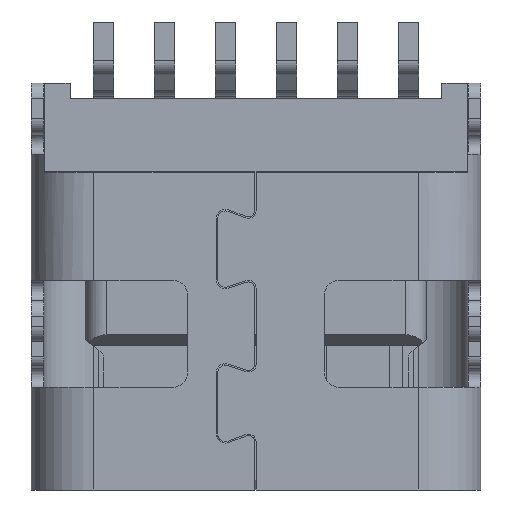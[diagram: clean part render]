
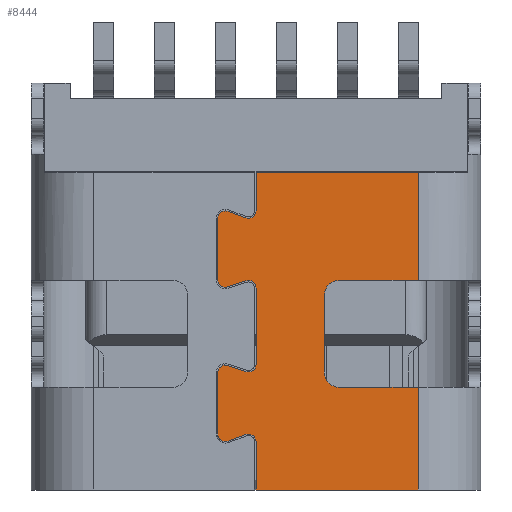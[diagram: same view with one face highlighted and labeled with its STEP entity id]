
A CAD part, front view. The second image highlights one B-rep face of the part: STEP entity #8444.
In plain terms, the highlighted planar face has unit normal (0, -1, 0).
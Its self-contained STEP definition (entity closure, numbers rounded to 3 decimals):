
#1666=DIRECTION('',(-1.,0.,0.));
#1667=VECTOR('',#1666,1.55);
#1668=CARTESIAN_POINT('',(3.19,-1.535,-10.018));
#1669=LINE('',#1668,#1667);
#1674=CARTESIAN_POINT('',(1.64,-1.535,-8.218));
#1675=DIRECTION('',(0.,-1.,0.));
#1676=DIRECTION('',(0.,0.,1.));
#1677=AXIS2_PLACEMENT_3D('',#1674,#1675,#1676);
#1679=CARTESIAN_POINT('',(1.64,-1.535,-9.718));
#1680=DIRECTION('',(0.,-1.,0.));
#1681=DIRECTION('',(-1.,0.,0.));
#1682=AXIS2_PLACEMENT_3D('',#1679,#1680,#1681);
#1684=DIRECTION('',(-1.,0.,0.));
#1685=VECTOR('',#1684,3.19);
#1686=CARTESIAN_POINT('',(3.19,-1.535,-12.038));
#1687=LINE('',#1686,#1685);
#1688=CARTESIAN_POINT('',(-0.15,-1.535,-11.088));
#1689=DIRECTION('',(0.,-1.,0.));
#1690=DIRECTION('',(1.,0.,0.));
#1691=AXIS2_PLACEMENT_3D('',#1688,#1689,#1690);
#1693=DIRECTION('',(-0.939,0.,-0.344));
#1694=VECTOR('',#1693,0.369);
#1695=CARTESIAN_POINT('',(-0.202,-1.535,
-10.948));
#1696=LINE('',#1695,#1694);
#1697=CARTESIAN_POINT('',(-0.6,-1.535,-10.934));
#1698=DIRECTION('',(0.,1.,0.));
#1699=DIRECTION('',(0.344,0.,-0.939));
#1700=AXIS2_PLACEMENT_3D('',#1697,#1698,#1699);
#1702=CARTESIAN_POINT('',(-0.6,-1.535,-9.734));
#1703=DIRECTION('',(0.,1.,0.));
#1704=DIRECTION('',(-1.,0.,0.));
#1705=AXIS2_PLACEMENT_3D('',#1702,#1703,#1704);
#1707=DIRECTION('',(0.948,0.,-0.317));
#1708=VECTOR('',#1707,0.374);
#1709=CARTESIAN_POINT('',(-0.552,-1.535,
-9.592));
#1710=LINE('',#1709,#1708);
#1711=CARTESIAN_POINT('',(-0.15,-1.535,-9.568));
#1712=DIRECTION('',(0.,-1.,0.));
#1713=DIRECTION('',(-0.317,0.,-0.948));
#1714=AXIS2_PLACEMENT_3D('',#1711,#1712,#1713);
#1716=CARTESIAN_POINT('',(-0.15,-1.535,-8.068));
#1717=DIRECTION('',(0.,-1.,0.));
#1718=DIRECTION('',(1.,0.,0.));
#1719=AXIS2_PLACEMENT_3D('',#1716,#1717,#1718);
#1721=DIRECTION('',(-0.948,0.,-0.317));
#1722=VECTOR('',#1721,0.374);
#1723=CARTESIAN_POINT('',(-0.198,-1.535,
-7.926));
#1724=LINE('',#1723,#1722);
#1725=CARTESIAN_POINT('',(-0.6,-1.535,-7.902));
#1726=DIRECTION('',(0.,1.,0.));
#1727=DIRECTION('',(0.317,0.,-0.948));
#1728=AXIS2_PLACEMENT_3D('',#1725,#1726,#1727);
#1730=CARTESIAN_POINT('',(-0.6,-1.535,-6.702));
#1731=DIRECTION('',(0.,1.,0.));
#1732=DIRECTION('',(-1.,0.,0.));
#1733=AXIS2_PLACEMENT_3D('',#1730,#1731,#1732);
#1735=DIRECTION('',(0.939,0.,-0.344));
#1736=VECTOR('',#1735,0.369);
#1737=CARTESIAN_POINT('',(-0.548,-1.535,
-6.561));
#1738=LINE('',#1737,#1736);
#1739=CARTESIAN_POINT('',(-0.15,-1.535,-6.548));
#1740=DIRECTION('',(0.,-1.,0.));
#1741=DIRECTION('',(-0.344,0.,-0.939));
#1742=AXIS2_PLACEMENT_3D('',#1739,#1740,#1741);
#1749=DIRECTION('',(-1.,0.,0.));
#1750=VECTOR('',#1749,3.19);
#1751=CARTESIAN_POINT('',(3.19,-1.535,-5.788));
#1752=LINE('',#1751,#1750);
#1757=DIRECTION('',(0.,0.,1.));
#1758=VECTOR('',#1757,2.13);
#1759=CARTESIAN_POINT('',(3.19,-1.535,-7.918));
#1760=LINE('',#1759,#1758);
#2228=DIRECTION('',(0.,0.,-1.));
#2229=VECTOR('',#2228,0.76);
#2230=CARTESIAN_POINT('',(0.,-1.535,-5.788));
#2231=LINE('',#2230,#2229);
#2256=DIRECTION('',(0.,0.,-1.));
#2257=VECTOR('',#2256,1.2);
#2258=CARTESIAN_POINT('',(-0.75,-1.535,-6.702));
#2259=LINE('',#2258,#2257);
#2340=DIRECTION('',(0.,0.,-1.));
#2341=VECTOR('',#2340,1.5);
#2342=CARTESIAN_POINT('',(0.,-1.535,-8.068));
#2343=LINE('',#2342,#2341);
#2364=DIRECTION('',(0.,0.,-1.));
#2365=VECTOR('',#2364,1.2);
#2366=CARTESIAN_POINT('',(-0.75,-1.535,-9.734));
#2367=LINE('',#2366,#2365);
#2388=DIRECTION('',(0.,0.,-1.));
#2389=VECTOR('',#2388,0.949);
#2390=CARTESIAN_POINT('',(0.,-1.535,-11.088));
#2391=LINE('',#2390,#2389);
#2486=DIRECTION('',(1.,0.,0.));
#2487=VECTOR('',#2486,1.55);
#2488=CARTESIAN_POINT('',(1.64,-1.535,-7.918));
#2489=LINE('',#2488,#2487);
#2516=DIRECTION('',(0.,0.,1.));
#2517=VECTOR('',#2516,1.5);
#2518=CARTESIAN_POINT('',(1.34,-1.535,-9.718));
#2519=LINE('',#2518,#2517);
#2544=DIRECTION('',(0.,0.,1.));
#2545=VECTOR('',#2544,2.02);
#2546=CARTESIAN_POINT('',(3.19,-1.535,-12.038));
#2547=LINE('',#2546,#2545);
#5364=CARTESIAN_POINT('',(0.,-1.535,-12.038));
#5365=VERTEX_POINT('',#5364);
#5366=CARTESIAN_POINT('',(3.19,-1.535,-12.038));
#5367=VERTEX_POINT('',#5366);
#5589=CARTESIAN_POINT('',(3.19,-1.535,-5.788));
#5590=CARTESIAN_POINT('',(0.,-1.535,-5.788));
#5591=VERTEX_POINT('',#5589);
#5592=VERTEX_POINT('',#5590);
#5593=CARTESIAN_POINT('',(1.64,-1.535,-7.918));
#5594=CARTESIAN_POINT('',(3.19,-1.535,-7.918));
#5595=VERTEX_POINT('',#5593);
#5596=VERTEX_POINT('',#5594);
#5597=CARTESIAN_POINT('',(1.34,-1.535,-9.718));
#5598=CARTESIAN_POINT('',(1.34,-1.535,-8.218));
#5599=VERTEX_POINT('',#5597);
#5600=VERTEX_POINT('',#5598);
#5601=CARTESIAN_POINT('',(3.19,-1.535,-10.018));
#5602=CARTESIAN_POINT('',(1.64,-1.535,-10.018));
#5603=VERTEX_POINT('',#5601);
#5604=VERTEX_POINT('',#5602);
#5605=CARTESIAN_POINT('',(0.,-1.535,-11.088));
#5606=VERTEX_POINT('',#5605);
#5607=CARTESIAN_POINT('',(-0.202,-1.535,
-10.948));
#5608=VERTEX_POINT('',#5607);
#5609=CARTESIAN_POINT('',(-0.548,-1.535,
-11.075));
#5610=VERTEX_POINT('',#5609);
#5611=CARTESIAN_POINT('',(-0.75,-1.535,-10.934));
#5612=VERTEX_POINT('',#5611);
#5613=CARTESIAN_POINT('',(-0.75,-1.535,-9.734));
#5614=VERTEX_POINT('',#5613);
#5615=CARTESIAN_POINT('',(-0.552,-1.535,
-9.592));
#5616=VERTEX_POINT('',#5615);
#5617=CARTESIAN_POINT('',(-0.198,-1.535,
-9.71));
#5618=VERTEX_POINT('',#5617);
#5619=CARTESIAN_POINT('',(0.,-1.535,-9.568));
#5620=VERTEX_POINT('',#5619);
#5621=CARTESIAN_POINT('',(0.,-1.535,-8.068));
#5622=VERTEX_POINT('',#5621);
#5623=CARTESIAN_POINT('',(-0.198,-1.535,
-7.926));
#5624=VERTEX_POINT('',#5623);
#5625=CARTESIAN_POINT('',(-0.552,-1.535,
-8.045));
#5626=VERTEX_POINT('',#5625);
#5627=CARTESIAN_POINT('',(-0.75,-1.535,-7.902));
#5628=VERTEX_POINT('',#5627);
#5629=CARTESIAN_POINT('',(-0.75,-1.535,-6.702));
#5630=VERTEX_POINT('',#5629);
#5631=CARTESIAN_POINT('',(-0.548,-1.535,
-6.561));
#5632=VERTEX_POINT('',#5631);
#5633=CARTESIAN_POINT('',(-0.202,-1.535,
-6.689));
#5634=VERTEX_POINT('',#5633);
#5635=CARTESIAN_POINT('',(0.,-1.535,-6.548));
#5636=VERTEX_POINT('',#5635);
#8388=CARTESIAN_POINT('',(1.22,-1.535,-8.913));
#8389=DIRECTION('',(0.,1.,0.));
#8390=DIRECTION('',(1.,0.,0.));
#8391=AXIS2_PLACEMENT_3D('',#8388,#8389,#8390);
#8392=PLANE('',#8391);
#8394=ORIENTED_EDGE('',*,*,#8393,.F.);
#8396=ORIENTED_EDGE('',*,*,#8395,.F.);
#8398=ORIENTED_EDGE('',*,*,#8397,.F.);
#8400=ORIENTED_EDGE('',*,*,#8399,.T.);
#8402=ORIENTED_EDGE('',*,*,#8401,.F.);
#8403=ORIENTED_EDGE('',*,*,#8379,.T.);
#8404=ORIENTED_EDGE('',*,*,#8368,.F.);
#8406=ORIENTED_EDGE('',*,*,#8405,.F.);
#8407=ORIENTED_EDGE('',*,*,#7248,.T.);
#8409=ORIENTED_EDGE('',*,*,#8408,.F.);
#8411=ORIENTED_EDGE('',*,*,#8410,.T.);
#8413=ORIENTED_EDGE('',*,*,#8412,.T.);
#8415=ORIENTED_EDGE('',*,*,#8414,.T.);
#8417=ORIENTED_EDGE('',*,*,#8416,.F.);
#8419=ORIENTED_EDGE('',*,*,#8418,.T.);
#8421=ORIENTED_EDGE('',*,*,#8420,.T.);
#8423=ORIENTED_EDGE('',*,*,#8422,.T.);
#8425=ORIENTED_EDGE('',*,*,#8424,.F.);
#8427=ORIENTED_EDGE('',*,*,#8426,.T.);
#8429=ORIENTED_EDGE('',*,*,#8428,.T.);
#8431=ORIENTED_EDGE('',*,*,#8430,.T.);
#8433=ORIENTED_EDGE('',*,*,#8432,.F.);
#8435=ORIENTED_EDGE('',*,*,#8434,.T.);
#8437=ORIENTED_EDGE('',*,*,#8436,.T.);
#8439=ORIENTED_EDGE('',*,*,#8438,.T.);
#8441=ORIENTED_EDGE('',*,*,#8440,.F.);
#8442=EDGE_LOOP('',(#8394,#8396,#8398,#8400,#8402,#8403,#8404,#8406,#8407,#8409,
#8411,#8413,#8415,#8417,#8419,#8421,#8423,#8425,#8427,#8429,#8431,#8433,#8435,
#8437,#8439,#8441));
#8443=FACE_OUTER_BOUND('',#8442,.F.);
#1678=CIRCLE('',#1677,0.3);
#1683=CIRCLE('',#1682,0.3);
#1692=CIRCLE('',#1691,0.15);
#1701=CIRCLE('',#1700,0.15);
#1706=CIRCLE('',#1705,0.15);
#1715=CIRCLE('',#1714,0.15);
#1720=CIRCLE('',#1719,0.15);
#1729=CIRCLE('',#1728,0.15);
#1734=CIRCLE('',#1733,0.15);
#1743=CIRCLE('',#1742,0.15);
#7248=EDGE_CURVE('',#5367,#5365,#1687,.T.);
#8368=EDGE_CURVE('',#5603,#5604,#1669,.T.);
#8379=EDGE_CURVE('',#5599,#5604,#1683,.T.);
#8393=EDGE_CURVE('',#5591,#5592,#1752,.T.);
#8395=EDGE_CURVE('',#5596,#5591,#1760,.T.);
#8397=EDGE_CURVE('',#5595,#5596,#2489,.T.);
#8399=EDGE_CURVE('',#5595,#5600,#1678,.T.);
#8401=EDGE_CURVE('',#5599,#5600,#2519,.T.);
#8405=EDGE_CURVE('',#5367,#5603,#2547,.T.);
#8408=EDGE_CURVE('',#5606,#5365,#2391,.T.);
#8410=EDGE_CURVE('',#5606,#5608,#1692,.T.);
#8412=EDGE_CURVE('',#5608,#5610,#1696,.T.);
#8414=EDGE_CURVE('',#5610,#5612,#1701,.T.);
#8416=EDGE_CURVE('',#5614,#5612,#2367,.T.);
#8418=EDGE_CURVE('',#5614,#5616,#1706,.T.);
#8420=EDGE_CURVE('',#5616,#5618,#1710,.T.);
#8422=EDGE_CURVE('',#5618,#5620,#1715,.T.);
#8424=EDGE_CURVE('',#5622,#5620,#2343,.T.);
#8426=EDGE_CURVE('',#5622,#5624,#1720,.T.);
#8428=EDGE_CURVE('',#5624,#5626,#1724,.T.);
#8430=EDGE_CURVE('',#5626,#5628,#1729,.T.);
#8432=EDGE_CURVE('',#5630,#5628,#2259,.T.);
#8434=EDGE_CURVE('',#5630,#5632,#1734,.T.);
#8436=EDGE_CURVE('',#5632,#5634,#1738,.T.);
#8438=EDGE_CURVE('',#5634,#5636,#1743,.T.);
#8440=EDGE_CURVE('',#5592,#5636,#2231,.T.);
#8444=ADVANCED_FACE('',(#8443),#8392,.F.);
